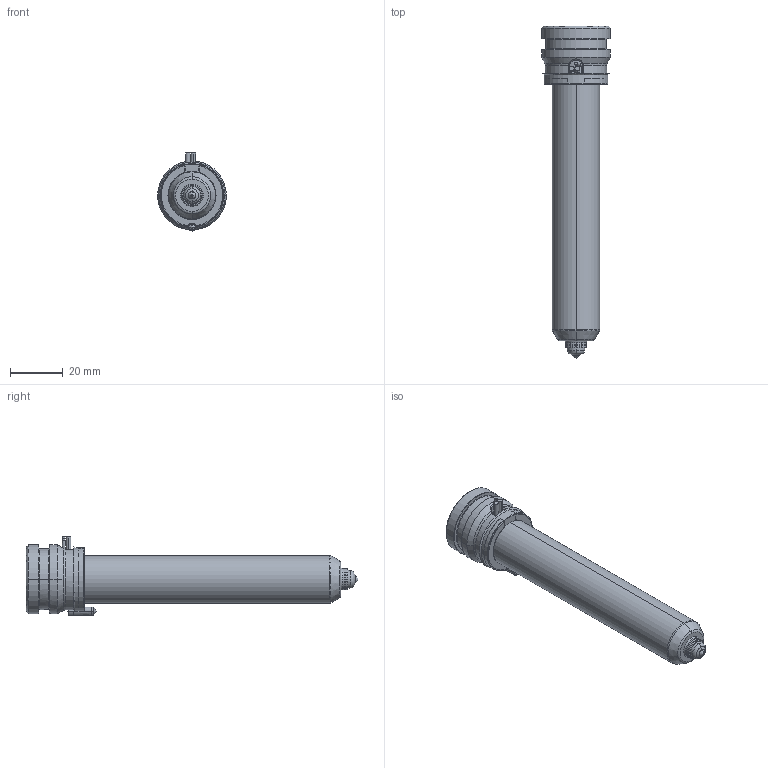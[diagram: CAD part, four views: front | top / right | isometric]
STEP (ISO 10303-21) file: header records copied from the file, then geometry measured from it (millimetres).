
FILE_DESCRIPTION((''),'2;1');
FILE_NAME('TH18107_5-A-1B15-PK-JG','2023-12-14T',('umhib'),('Thermoplay S.p.A.'),'PRO/ENGINEER BY PARAMETRIC TECHNOLOGY CORPORATION, 2017170','PRO/ENGINEER BY PARAMETRIC TECHNOLOGY CORPORATION, 2017170','');
FILE_SCHEMA(('CONFIG_CONTROL_DESIGN'));
Length unit declared in the file: millimetre
Products named in the file (1): TH18107_5-A-1B15-PK-JG
Bounding box: 26 x 125.5 x 29.5 mm (x, y, z)
Volume: 25918 mm3; surface area: 18881.5 mm2
Topology: 1 solids, 2 shells, 398 faces, 1036 edges, 643 vertices
Faces by surface type: cylinder 151, plane 85, cone 68, torus 56, bspline 24, sphere 12, extrusion 2
Entity records: 18088 total; most frequent: CARTESIAN_POINT 6123, ORIENTED_EDGE 2048, DIRECTION 2031, EDGE_CURVE 1026, AXIS2_PLACEMENT_3D 815, VERTEX_POINT 643, CIRCLE 442, EDGE_LOOP 418
